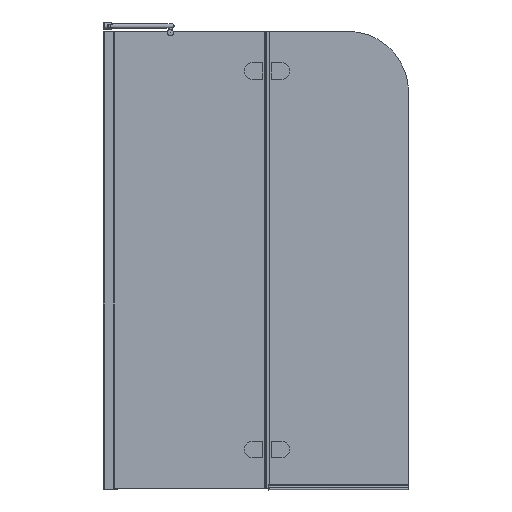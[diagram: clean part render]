
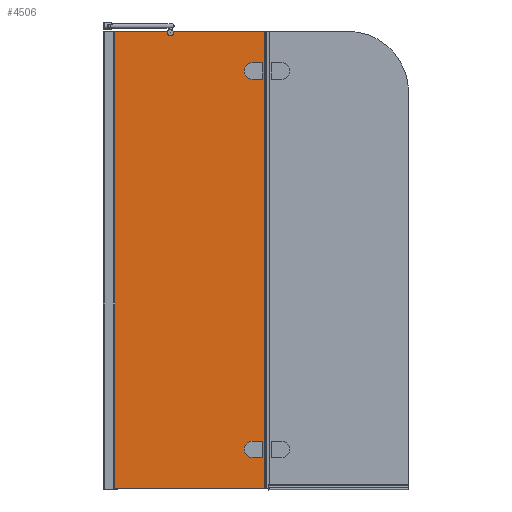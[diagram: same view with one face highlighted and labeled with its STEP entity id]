
A CAD part, left-side view. The second image highlights one B-rep face of the part: STEP entity #4506.
In plain terms, the highlighted planar face has unit normal (-1, 0, 0).
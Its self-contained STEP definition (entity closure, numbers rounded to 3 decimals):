
#139=FACE_BOUND($,#514,.T.);
#140=FACE_BOUND($,#515,.T.);
#141=FACE_BOUND($,#516,.T.);
#514=EDGE_LOOP($,(#3275,#3276,#3277,#3278));
#515=EDGE_LOOP($,(#3279,#3280,#3281,#3282));
#516=EDGE_LOOP($,(#3283,#3284,#3285,#3286,#3287,#3288,#3289));
#674=CIRCLE($,#4695,26.);
#686=CIRCLE($,#4732,26.);
#705=CIRCLE($,#4784,10.);
#902=LINE($,#6489,#1341);
#906=LINE($,#6497,#1345);
#910=LINE($,#6508,#1349);
#952=LINE($,#6617,#1391);
#956=LINE($,#6625,#1395);
#960=LINE($,#6636,#1399);
#1030=LINE($,#7049,#1469);
#1031=LINE($,#7051,#1470);
#1032=LINE($,#7053,#1471);
#1033=LINE($,#7055,#1472);
#1034=LINE($,#7057,#1473);
#1035=LINE($,#7058,#1474);
#1341=VECTOR($,#5238,52.);
#1345=VECTOR($,#5244,23.);
#1349=VECTOR($,#5256,23.);
#1391=VECTOR($,#5362,52.);
#1395=VECTOR($,#5368,23.);
#1399=VECTOR($,#5380,23.);
#1469=VECTOR($,#5592,178.274);
#1470=VECTOR($,#5593,1.);
#1471=VECTOR($,#5594,1499.);
#1472=VECTOR($,#5595,495.3);
#1473=VECTOR($,#5596,1500.);
#1474=VECTOR($,#5597,299.166);
#1766=VERTEX_POINT($,#6487);
#1767=VERTEX_POINT($,#6488);
#1770=VERTEX_POINT($,#6496);
#1772=VERTEX_POINT($,#6502);
#1807=VERTEX_POINT($,#6615);
#1808=VERTEX_POINT($,#6616);
#1811=VERTEX_POINT($,#6624);
#1813=VERTEX_POINT($,#6630);
#1872=VERTEX_POINT($,#6844);
#1873=VERTEX_POINT($,#6846);
#1890=VERTEX_POINT($,#7048);
#1891=VERTEX_POINT($,#7050);
#1892=VERTEX_POINT($,#7052);
#1893=VERTEX_POINT($,#7054);
#1894=VERTEX_POINT($,#7056);
#2222=EDGE_CURVE($,#1766,#1767,#902,.T.);
#2226=EDGE_CURVE($,#1767,#1770,#906,.T.);
#2229=EDGE_CURVE($,#1770,#1772,#674,.T.);
#2232=EDGE_CURVE($,#1772,#1766,#910,.T.);
#2284=EDGE_CURVE($,#1807,#1808,#952,.T.);
#2288=EDGE_CURVE($,#1808,#1811,#956,.T.);
#2291=EDGE_CURVE($,#1811,#1813,#686,.T.);
#2294=EDGE_CURVE($,#1813,#1807,#960,.T.);
#2378=EDGE_CURVE($,#1873,#1872,#705,.T.);
#2402=EDGE_CURVE($,#1872,#1890,#1030,.T.);
#2403=EDGE_CURVE($,#1890,#1891,#1031,.T.);
#2404=EDGE_CURVE($,#1891,#1892,#1032,.T.);
#2405=EDGE_CURVE($,#1893,#1892,#1033,.T.);
#2406=EDGE_CURVE($,#1893,#1894,#1034,.T.);
#2407=EDGE_CURVE($,#1894,#1873,#1035,.T.);
#3275=ORIENTED_EDGE($,*,*,#2222,.T.);
#3276=ORIENTED_EDGE($,*,*,#2226,.T.);
#3277=ORIENTED_EDGE($,*,*,#2229,.T.);
#3278=ORIENTED_EDGE($,*,*,#2232,.T.);
#3279=ORIENTED_EDGE($,*,*,#2284,.T.);
#3280=ORIENTED_EDGE($,*,*,#2288,.T.);
#3281=ORIENTED_EDGE($,*,*,#2291,.T.);
#3282=ORIENTED_EDGE($,*,*,#2294,.T.);
#3283=ORIENTED_EDGE($,*,*,#2378,.T.);
#3284=ORIENTED_EDGE($,*,*,#2402,.T.);
#3285=ORIENTED_EDGE($,*,*,#2403,.T.);
#3286=ORIENTED_EDGE($,*,*,#2404,.T.);
#3287=ORIENTED_EDGE($,*,*,#2405,.F.);
#3288=ORIENTED_EDGE($,*,*,#2406,.T.);
#3289=ORIENTED_EDGE($,*,*,#2407,.T.);
#4091=PLANE($,#4805);
#4506=ADVANCED_FACE($,(#139,#140,#141),#4091,.T.);
#4695=AXIS2_PLACEMENT_3D($,#6503,#5249,#5250);
#4732=AXIS2_PLACEMENT_3D($,#6631,#5373,#5374);
#4784=AXIS2_PLACEMENT_3D($,#6847,#5541,#5542);
#4805=AXIS2_PLACEMENT_3D($,#7047,#5590,#5591);
#5238=DIRECTION($,(0.,0.,-1.));
#5244=DIRECTION($,(0.,1.,0.));
#5249=DIRECTION('center_axis',(1.,0.,0.));
#5250=DIRECTION('ref_axis',(0.,0.,
1.));
#5256=DIRECTION($,(0.,-1.,0.));
#5362=DIRECTION($,(0.,0.,-1.));
#5368=DIRECTION($,(0.,1.,0.));
#5373=DIRECTION('center_axis',(1.,0.,0.));
#5374=DIRECTION('ref_axis',(0.,0.,
1.));
#5380=DIRECTION($,(0.,-1.,0.));
#5541=DIRECTION('center_axis',(1.,0.,0.));
#5542=DIRECTION('ref_axis',(0.,0.597,0.802));
#5590=DIRECTION('center_axis',(-1.,0.,0.));
#5591=DIRECTION('ref_axis',(0.,1.,0.));
#5592=DIRECTION($,(0.,1.,0.));
#5593=DIRECTION($,(0.,0.,-1.));
#5594=DIRECTION($,(0.,0.,-1.));
#5595=DIRECTION($,(0.,1.,0.));
#5596=DIRECTION($,(0.,0.,1.));
#5597=DIRECTION($,(0.,1.,0.));
#6487=CARTESIAN_POINT('',(1225.733,934.756,181.944));
#6488=CARTESIAN_POINT('',(1225.733,934.756,129.944));
#6489=CARTESIAN_POINT($,(1225.733,934.756,827.944));
#6496=CARTESIAN_POINT('',(1225.733,957.756,129.944));
#6497=CARTESIAN_POINT($,(1225.733,935.756,129.944));
#6502=CARTESIAN_POINT('',(1225.733,957.756,181.944));
#6503=CARTESIAN_POINT('Origin',(1225.733,957.756,155.944));
#6508=CARTESIAN_POINT($,(1225.733,924.256,181.944));
#6615=CARTESIAN_POINT('',(1225.733,934.756,1421.944));
#6616=CARTESIAN_POINT('',(1225.733,934.756,1369.944));
#6617=CARTESIAN_POINT($,(1225.733,934.756,1447.944));
#6624=CARTESIAN_POINT('',(1225.733,957.756,1369.944));
#6625=CARTESIAN_POINT($,(1225.733,935.756,1369.944));
#6630=CARTESIAN_POINT('',(1225.733,957.756,1421.944));
#6631=CARTESIAN_POINT('Origin',(1225.733,957.756,1395.944));
#6636=CARTESIAN_POINT($,(1225.733,924.256,1421.944));
#6844=CARTESIAN_POINT('',(1225.733,1235.482,1525.944));
#6846=CARTESIAN_POINT('',(1225.733,1217.622,1525.944));
#6847=CARTESIAN_POINT('Origin',(1225.733,1226.552,1521.444));
#7047=CARTESIAN_POINT('Origin',(1225.733,913.756,1525.944));
#7048=CARTESIAN_POINT('',(1225.733,1413.756,1525.944));
#7049=CARTESIAN_POINT($,(1225.733,913.756,1525.944));
#7050=CARTESIAN_POINT('',(1225.733,1413.756,1524.944));
#7051=CARTESIAN_POINT($,(1225.733,1413.756,1525.944));
#7052=CARTESIAN_POINT('',(1225.733,1413.756,25.944));
#7053=CARTESIAN_POINT($,(1225.733,1413.756,1525.944));
#7054=CARTESIAN_POINT('',(1225.733,918.456,25.944));
#7055=CARTESIAN_POINT($,(1225.733,913.756,25.944));
#7056=CARTESIAN_POINT('',(1225.733,918.456,1525.944));
#7057=CARTESIAN_POINT($,(1225.733,918.456,775.944));
#7058=CARTESIAN_POINT($,(1225.733,913.756,1525.944));
